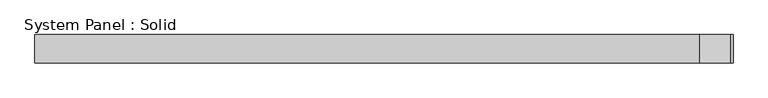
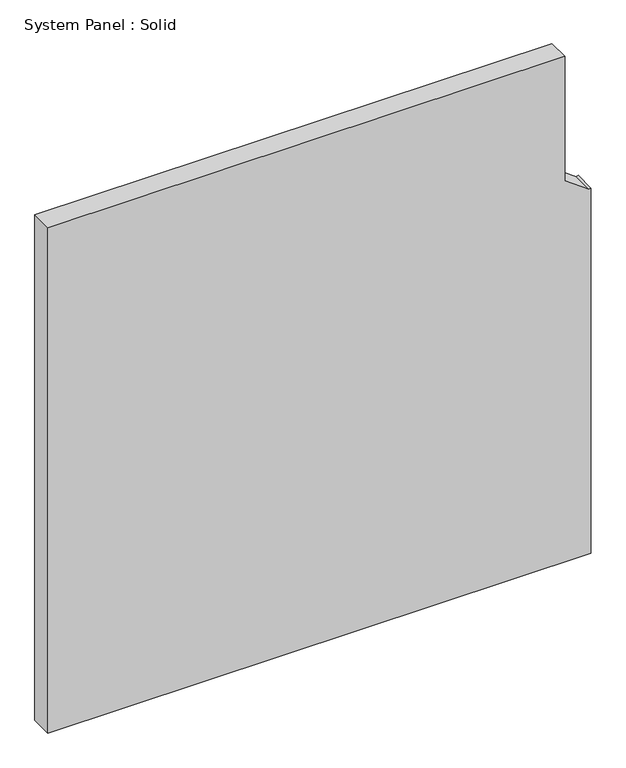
"""IFC4 building model written with IfcOpenShell, lengths in millimetres: plate geometry, System Panel : Solid."""

from ifc_helpers import new_model, si_unit, frame, origin, place, context, project, spatial, polyline, outline, extrude, source, transform, mapped, element, save


def system_panel_solid_e7212ce5(model_context):
    return source(origin(), model_context, "Body", "SweptSolid", [
        extrude(outline(polyline([(0.0, -737.0), (0.0, 737.0), (1046.0384518, 737.0), (1044.3133162, 731.8321259), (1091.7405634, 665.9999997), (1449.0, 665.9999997), (1449.0, -737.0), (0.0, -737.0)])), frame((0.0, -10.5, 0.0), z_axis=(0.0, 1.0, 0.0), x_axis=(0.0, 0.0, 1.0)), (0.0, 0.0, 1.0), 60.0),
    ])


if __name__ == "__main__":
    model = new_model("IFC4")
    model_context = context("Model", 3, world=origin())
    ifc_project = project(units=[si_unit("LENGTHUNIT", "METRE", prefix="MILLI")], contexts=[model_context])
    site = spatial("IfcSite", under=ifc_project)
    building = spatial("IfcBuilding", under=site)
    placement = place(None, origin())
    system_panel_solid_shape = system_panel_solid_e7212ce5(model_context)
    element("IfcPlate", 1, ObjectType="System Panel : Solid", at=placement, inside=building, context=model_context, shape_type="MappedRepresentation", body=[
        mapped(system_panel_solid_shape, transform((0.0, 0.0, 0.0), x_axis=(1.0, 0.0, 0.0), y_axis=(0.0, 1.0, 0.0), z_axis=(0.0, 0.0, 1.0))),
    ])
    save(model, "model.ifc")
